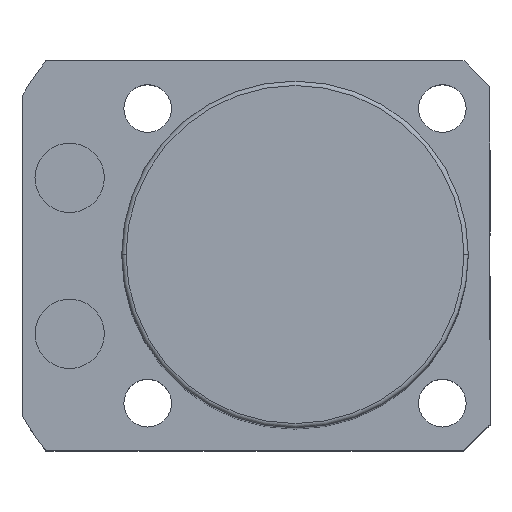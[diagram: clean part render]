
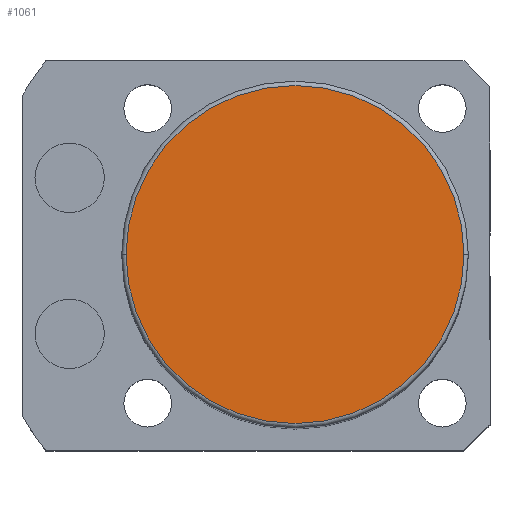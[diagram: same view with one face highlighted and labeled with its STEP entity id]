
A CAD part, top view. The second image highlights one B-rep face of the part: STEP entity #1061.
In plain terms, the highlighted planar face has unit normal (0, 0, 1).
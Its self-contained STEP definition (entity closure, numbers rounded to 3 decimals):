
#76 = DIRECTION ( 'NONE',  ( 0., 0., 1. ) ) ;
#102 = CARTESIAN_POINT ( 'NONE',  ( 0., 0., 98.5 ) ) ;
#228 = EDGE_CURVE ( 'NONE', #2424, #622, #1028, .T. ) ;
#391 = AXIS2_PLACEMENT_3D ( 'NONE', #1178, #2170, #1369 ) ;
#465 = ORIENTED_EDGE ( 'NONE', *, *, #228, .T. ) ;
#622 = VERTEX_POINT ( 'NONE', #1392 ) ;
#680 = DIRECTION ( 'NONE',  ( 0., 0., 1. ) ) ;
#929 = EDGE_LOOP ( 'NONE', ( #465, #2484 ) ) ;
#1028 = CIRCLE ( 'NONE', #391, 19.5 ) ;
#1061 = ADVANCED_FACE ( 'NONE', ( #2121 ), #2414, .T. ) ;
#1178 = CARTESIAN_POINT ( 'NONE',  ( 0., 0., 98.5 ) ) ;
#1369 = DIRECTION ( 'NONE',  ( 1., 0., 0. ) ) ;
#1392 = CARTESIAN_POINT ( 'NONE',  ( -19.5, 0., 98.5 ) ) ;
#1457 = DIRECTION ( 'NONE',  ( 1., 0., 0. ) ) ;
#1549 = AXIS2_PLACEMENT_3D ( 'NONE', #2233, #76, #1624 ) ;
#1624 = DIRECTION ( 'NONE',  ( 1., 0., 0. ) ) ;
#1704 = AXIS2_PLACEMENT_3D ( 'NONE', #102, #680, #1457 ) ;
#2056 = CARTESIAN_POINT ( 'NONE',  ( 19.5, 0., 98.5 ) ) ;
#2121 = FACE_OUTER_BOUND ( 'NONE', #929, .T. ) ;
#2170 = DIRECTION ( 'NONE',  ( 0., 0., 1. ) ) ;
#2221 = EDGE_CURVE ( 'NONE', #622, #2424, #2301, .T. ) ;
#2233 = CARTESIAN_POINT ( 'NONE',  ( 0., 0., 98.5 ) ) ;
#2301 = CIRCLE ( 'NONE', #1704, 19.5 ) ;
#2414 = PLANE ( 'NONE',  #1549 ) ;
#2424 = VERTEX_POINT ( 'NONE', #2056 ) ;
#2484 = ORIENTED_EDGE ( 'NONE', *, *, #2221, .T. ) ;
